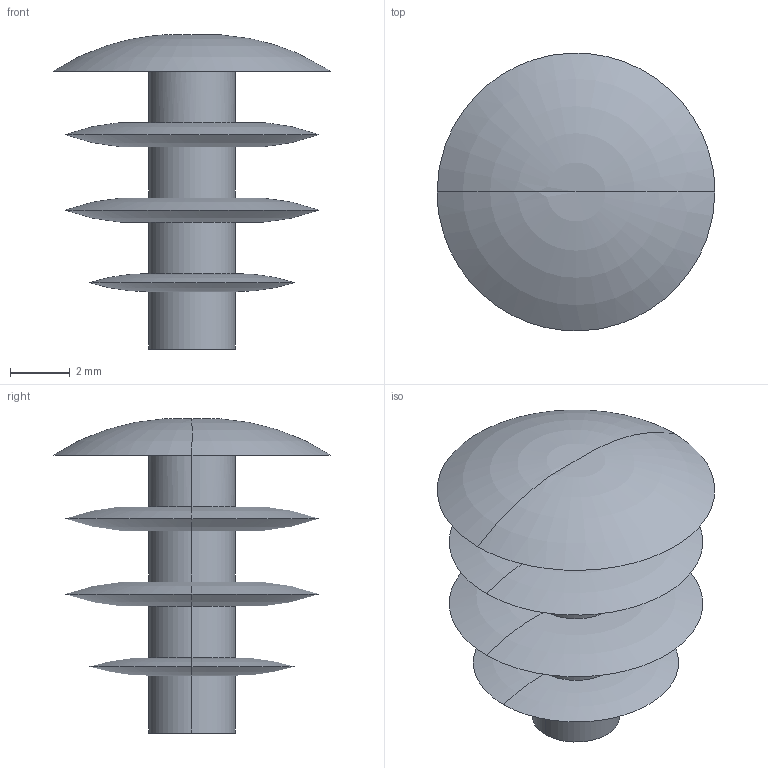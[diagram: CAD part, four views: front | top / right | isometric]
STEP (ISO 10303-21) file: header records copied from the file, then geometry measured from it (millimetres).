
FILE_DESCRIPTION (( 'STEP AP214' ), '1' );
FILE_NAME ('1.1046 Peitetulppa 7.STEP', '2025-09-03T09:01:52', ( '' ), ( '' ), 'SwSTEP 2.0', 'SolidWorks 2025', '' );
FILE_SCHEMA (( 'AUTOMOTIVE_DESIGN' ));
Length unit declared in the file: millimetre
Products named in the file (1): 1.1046 Peitetulppa 7
Bounding box: 9.31 x 9.3 x 10.52 mm (x, y, z)
Surface area: 473.6 mm2 (no closed solid volume)
Topology: 0 solids, 1 shells, 24 faces, 48 edges, 25 vertices
Faces by surface type: torus 14, cylinder 8, plane 2
Entity records: 972 total; most frequent: CARTESIAN_POINT 574, ORIENTED_EDGE 92, DIRECTION 50, EDGE_CURVE 46, B_SPLINE_CURVE_WITH_KNOTS 46, AXIS2_PLACEMENT_3D 25, VERTEX_POINT 25, EDGE_LOOP 25
